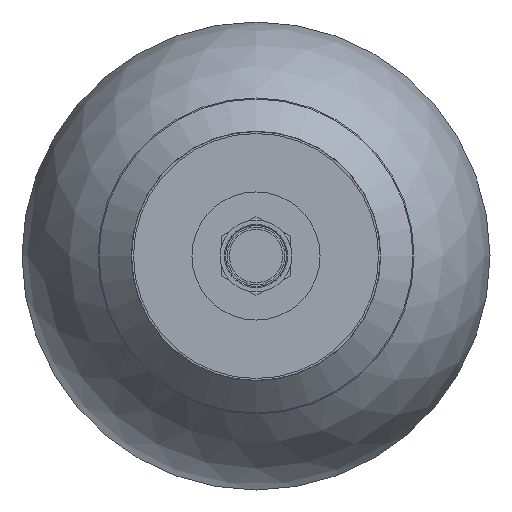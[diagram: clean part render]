
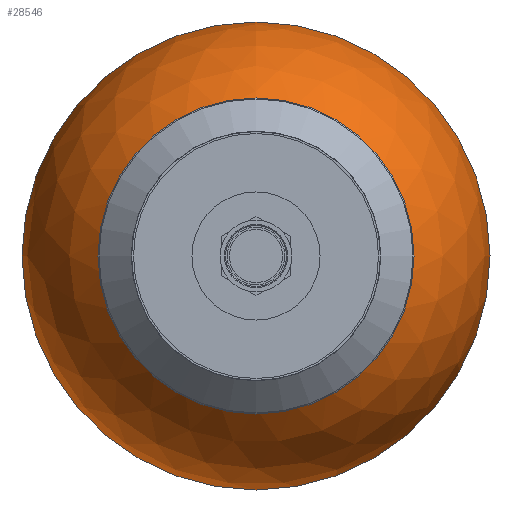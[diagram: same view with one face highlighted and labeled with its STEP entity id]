
A CAD part, front view. The second image highlights one B-rep face of the part: STEP entity #28546.
In plain terms, the highlighted spherical face has radius 109.55 mm.
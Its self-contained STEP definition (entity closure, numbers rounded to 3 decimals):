
#28388=CARTESIAN_POINT('',(-140.659,-155.6,0.));
#28389=VERTEX_POINT('',#28388);
#28390=CARTESIAN_POINT('',(-140.659,-46.05,0.0));
#28391=DIRECTION('',(1.0,0.0,0.0));
#28392=DIRECTION('',(0.0,1.0,0.0));
#28393=AXIS2_PLACEMENT_3D('',#28390,#28391,#28392);
#28394=CIRCLE('',#28393,109.55);
#28395=EDGE_CURVE('',#28389,#28389,#28394,.T.);
#28520=CARTESIAN_POINT('',(-246.021,-16.05,0.0));
#28521=VERTEX_POINT('',#28520);
#28522=CARTESIAN_POINT('',(-246.021,-46.05,0.0));
#28523=DIRECTION('',(1.0,0.0,0.0));
#28524=DIRECTION('',(0.0,1.0,0.0));
#28525=AXIS2_PLACEMENT_3D('',#28522,#28523,#28524);
#28526=CIRCLE('',#28525,30.0);
#28527=EDGE_CURVE('',#28521,#28521,#28526,.T.);
#28535=CARTESIAN_POINT('',(-140.659,-46.05,0.0));
#28536=DIRECTION('',(1.0,0.0,0.0));
#28537=DIRECTION('',(0.0,-1.0,0.0));
#28538=AXIS2_PLACEMENT_3D('',#28535,#28536,#28537);
#28539=SPHERICAL_SURFACE('',#28538,109.55);
#28540=ORIENTED_EDGE('',*,*,#28395,.F.);
#28541=EDGE_LOOP('',(#28540));
#28542=FACE_OUTER_BOUND('',#28541,.T.);
#28543=ORIENTED_EDGE('',*,*,#28527,.T.);
#28544=EDGE_LOOP('',(#28543));
#28545=FACE_BOUND('',#28544,.T.);
#28546=ADVANCED_FACE('',(#28542,#28545),#28539,.T.);
